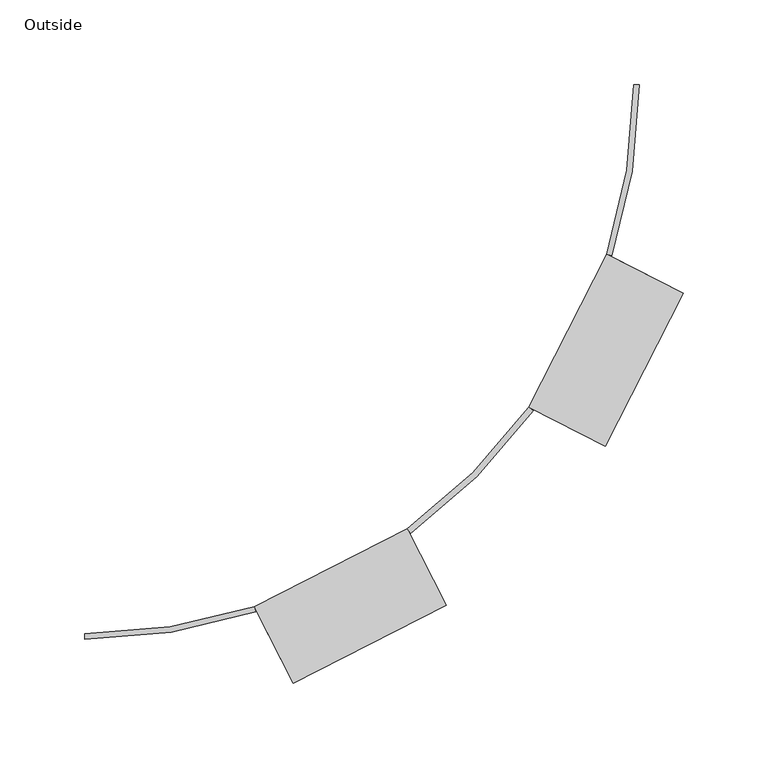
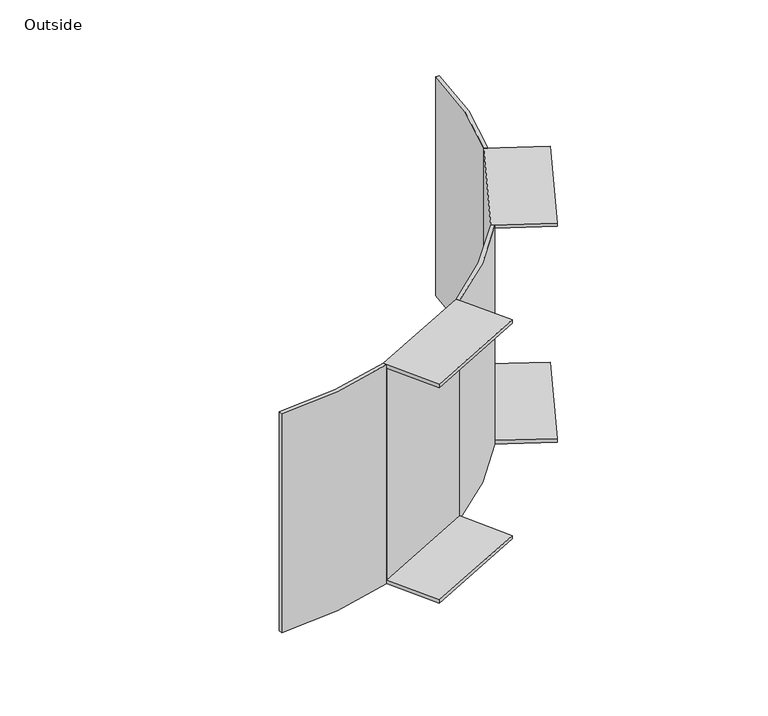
"""IFC4 building model written with IfcOpenShell, lengths in millimetres: cable carrier fitting geometry, Bend-Vertical-Cablofil-Wire_Mesh_Cable_Tray : Outside."""

from ifc_helpers import new_model, si_unit, point, frame, frame_2d, origin, place, context, project, spatial, polyline, circle_curve, trimmed, segment, composite_curve, outline, extrude, source, transform, mapped, element, save


def outside_6da51719(model_context):
    return source(origin(), model_context, "Body", "SweptSolid", [
        extrude(outline(composite_curve([segment(polyline([(-87.4191764, 159.2612254), (-84.8505475, 157.3950072)]), True, "CONTINUOUS"), segment(trimmed(circle_curve(frame_2d((-350.1366237, 350.1366237)), 327.9116237), [point((-84.8505475, 157.3950072))], [point((-157.3950072, 84.8505475))], False, "CARTESIAN"), True, "CONTINUOUS"), segment(polyline([(-157.3950072, 84.8505475), (-159.2612254, 87.4191764)]), True, "CONTINUOUS"), segment(trimmed(circle_curve(frame_2d((-350.1366237, 350.1366237)), 324.7366237), [point((-159.2612254, 87.4191764))], [point((-87.4191764, 159.2612254))], True, "CARTESIAN"), True, "CONTINUOUS")], self_intersect=False)), frame((0.0, 0.0, -101.6), z_axis=(0.0, 0.0, 1.0), x_axis=(1.0, 0.0, 0.0)), (0.0, 0.0, 1.0), 203.2),
        extrude(outline(composite_curve([segment(polyline([(-249.7874882, 41.2937416), (-248.8063593, 38.2741372)]), True, "CONTINUOUS"), segment(trimmed(circle_curve(frame_2d((-350.1366237, 350.1366237)), 327.9116237), [point((-248.8063593, 38.2741372))], [point((-350.1366237, 22.225))], False, "CARTESIAN"), True, "CONTINUOUS"), segment(polyline([(-350.1366237, 22.225), (-350.1366237, 25.4)]), True, "CONTINUOUS"), segment(trimmed(circle_curve(frame_2d((-350.1366237, 350.1366237)), 324.7366237), [point((-350.1366237, 25.4))], [point((-249.7874882, 41.2937416))], True, "CARTESIAN"), True, "CONTINUOUS")], self_intersect=False)), frame((0.0, 0.0, -101.6), z_axis=(0.0, 0.0, 1.0), x_axis=(1.0, 0.0, 0.0)), (0.0, 0.0, 1.0), 203.2),
        extrude(outline(composite_curve([segment(polyline([(-25.4, 350.1366237), (-22.225, 350.1366237)]), True, "CONTINUOUS"), segment(trimmed(circle_curve(frame_2d((-350.1366237, 350.1366237)), 327.9116237), [point((-22.225, 350.1366237))], [point((-38.2741372, 248.8063593))], False, "CARTESIAN"), True, "CONTINUOUS"), segment(polyline([(-38.2741372, 248.8063593), (-41.2937416, 249.7874882)]), True, "CONTINUOUS"), segment(trimmed(circle_curve(frame_2d((-350.1366237, 350.1366237)), 324.7366237), [point((-41.2937416, 249.7874882))], [point((-25.4, 350.1366237))], True, "CARTESIAN"), True, "CONTINUOUS")], self_intersect=False)), frame((0.0, 0.0, -101.6), z_axis=(0.0, 0.0, 1.0), x_axis=(1.0, 0.0, 0.0)), (0.0, 0.0, 1.0), 203.2),
        extrude(outline(polyline([(-50.7999999, 0.0), (0.0, 0.0), (0.0, -203.2), (-50.7999999, -203.2), (-50.7999999, -200.025), (-3.175, -200.025), (-3.175, -3.175), (-50.7999999, -3.175), (-50.7999999, 0.0)])), frame((-249.7874882, 41.2937416, 101.6), z_axis=(0.8910065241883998, 0.45399049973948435, 0.0), x_axis=(-0.45399049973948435, 0.8910065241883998, 0.0)), (0.0, 0.0, 1.0), 101.6),
        extrude(outline(polyline([(-50.8, 0.0), (0.0, 0.0), (0.0, -203.2), (-50.8, -203.2), (-50.8, -200.025), (-3.175, -200.025), (-3.175, -3.175), (-50.8, -3.175), (-50.8, 0.0)])), frame((-87.4191764, 159.2612254, 101.6), z_axis=(0.45399049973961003, 0.8910065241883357, 0.0), x_axis=(-0.8910065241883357, 0.45399049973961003, 0.0)), (0.0, 0.0, 1.0), 101.6),
    ])


if __name__ == "__main__":
    model = new_model("IFC4")
    model_context = context("Model", 3, world=origin())
    ifc_project = project(units=[si_unit("LENGTHUNIT", "METRE", prefix="MILLI")], contexts=[model_context])
    site = spatial("IfcSite", under=ifc_project)
    building = spatial("IfcBuilding", under=site)
    placement = place(None, origin())
    outside_shape = outside_6da51719(model_context)
    element("IfcCableCarrierFitting", 1, ObjectType="Bend-Vertical-Cablofil-Wire_Mesh_Cable_Tray : Outside", at=placement, inside=building, context=model_context, shape_type="MappedRepresentation", body=[
        mapped(outside_shape, transform((0.0, 0.0, 0.0), x_axis=(1.0, 0.0, 0.0), y_axis=(0.0, 1.0, 0.0), z_axis=(0.0, 0.0, 1.0))),
    ])
    save(model, "model.ifc")
